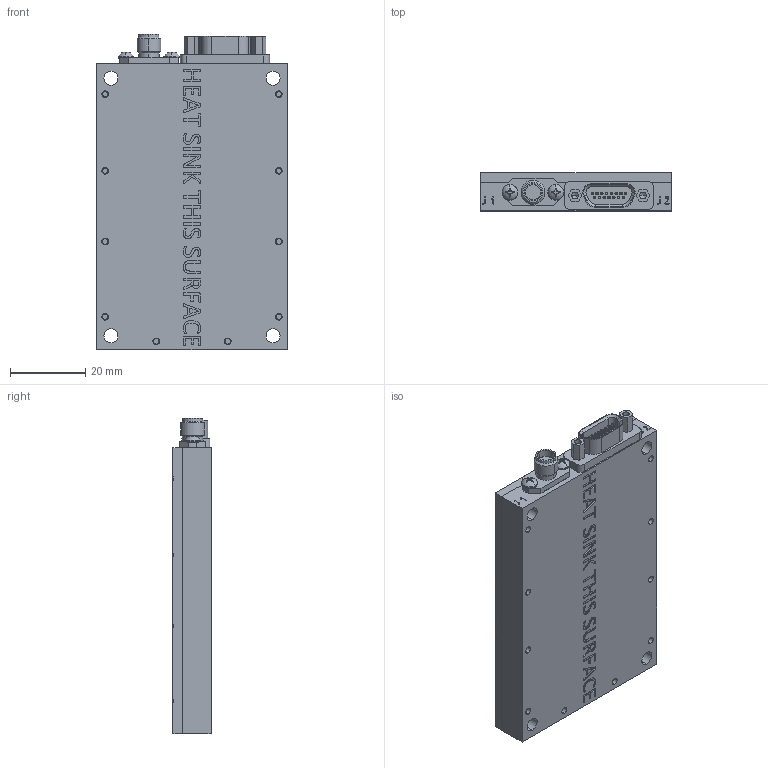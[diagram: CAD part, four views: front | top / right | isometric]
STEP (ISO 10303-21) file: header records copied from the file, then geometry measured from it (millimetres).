
FILE_DESCRIPTION (( 'STEP AP203' ), '1' );
FILE_NAME ('QS-TX-02BBXXX.STEP', '2023-01-24T19:59:55', ( '' ), ( '' ), 'SwSTEP 2.0', 'SolidWorks 2021', '' );
FILE_SCHEMA (( 'CONFIG_CONTROL_DESIGN' ));
Products named in the file (1): QS-TX-02BBXXX
Bounding box: 50.8 x 10.16 x 84.14 mm (x, y, z)
Volume: 39455.8 mm3; surface area: 22540.8 mm2
Topology: 18 solids, 18 shells, 1424 faces, 3695 edges, 2396 vertices
Faces by surface type: plane 582, cylinder 381, bspline 306, cone 135, torus 16, sphere 4
Entity records: 54610 total; most frequent: CARTESIAN_POINT 21822, ORIENTED_EDGE 7318, DIRECTION 5863, EDGE_CURVE 3659, VERTEX_POINT 2396, AXIS2_PLACEMENT_3D 2029, LINE 1805, VECTOR 1805
